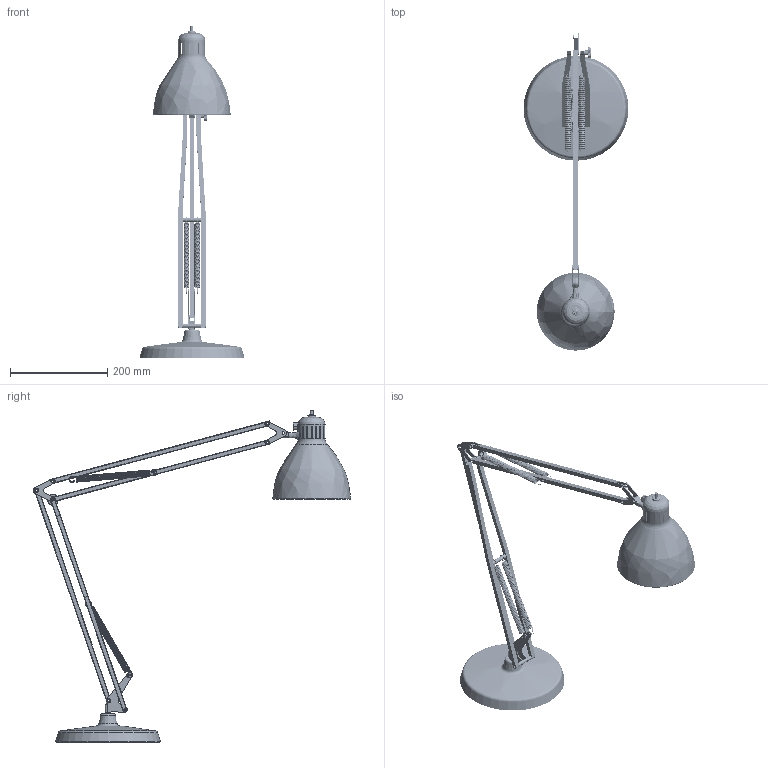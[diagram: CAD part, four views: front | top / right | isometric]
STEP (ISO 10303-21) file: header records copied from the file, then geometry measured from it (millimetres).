
FILE_DESCRIPTION(/* description */ (''),/* implementation_level */ '2;1');
FILE_NAME(/* name */ 'C:\Users\matteo.garelli\Desktop\JJ SMALL - ROUND BASE.stp',/* time_stamp */ '2021-05-12T09:38:11+02:00',/* author */ ('matteo.garelli'),/* organization */ (''),/* preprocessor_version */ 'ST-DEVELOPER v18.1',/* originating_system */ 'Autodesk Inventor 2020',/* authorisation */ '');
FILE_SCHEMA (('AUTOMOTIVE_DESIGN { 1 0 10303 214 3 1 1 }'));
Products named in the file (1): JJ SMALL - ROUND BASE
Bounding box: 215 x 651.36 x 681.56 mm (x, y, z)
Volume: 212066.8 mm3; surface area: 506195.8 mm2
Topology: 9 solids, 9 shells, 957 faces, 2739 edges, 1865 vertices
Faces by surface type: plane 406, cylinder 338, bspline 92, torus 90, cone 24, sphere 7
Full cylindrical faces by diameter (mm): 2 x2, 2.459 x1, 2.5 x2, 3 x3, 4 x6, 4.134 x1, 4.2 x6, 4.917 x1, 5 x17, 5.2 x18, 5.75 x2, 5.9 x1, 6 x8, 7 x6, 7.2 x1, 8 x16, 8.5 x12, 8.917 x1, 9.5 x2, 10 x2, 10.3 x1, 11 x1, 12 x2, 15.5 x1, 17 x1, 53 x1, 138.2 x1, 156.004 x1, 212.2 x1
Entity records: 85578 total; most frequent: CARTESIAN_POINT 59341, ORIENTED_EDGE 5448, DIRECTION 5032, EDGE_CURVE 2724, AXIS2_PLACEMENT_3D 1897, VERTEX_POINT 1837, LINE 1238, VECTOR 1238
